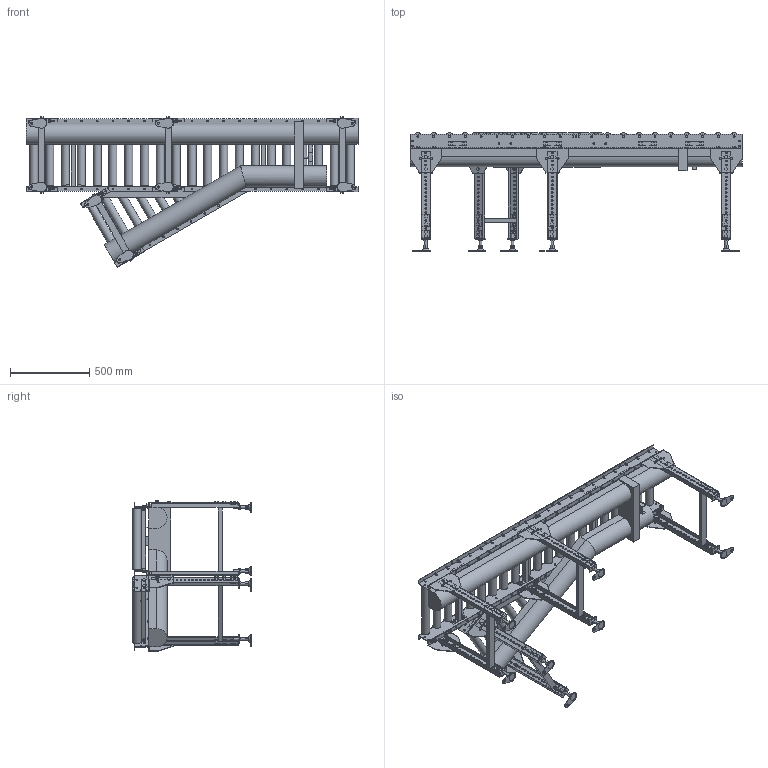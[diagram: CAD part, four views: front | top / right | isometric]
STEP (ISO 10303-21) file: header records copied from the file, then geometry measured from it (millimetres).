
FILE_DESCRIPTION( (''), '2;1');
FILE_NAME ('WEB-MCD-50-400-100-210-L-J30.stp','2025-07-01T15:42:36',(''),(''),'spGate 20.6.2 (****-****-****-****)','','');
FILE_SCHEMA (('AUTOMOTIVE_DESIGN'));
Length unit declared in the file: millimetre
Products named in the file (60): WEB-MCD-50-400-100-210-L-J30; TEMP_X_T-prt0; TEMP_X_T-prt1; TEMP_X_T-prt2; TEMP_X_T-prt3; TEMP_X_T-prt4; TEMP_X_T-prt5; TEMP_X_T-prt6; TEMP_X_T-prt7; TEMP_X_T-prt8; TEMP_X_T-prt9; TEMP_X_T-prt10; TEMP_X_T-prt11; TEMP_X_T-prt12; TEMP_X_T-prt13; TEMP_X_T-prt14; TEMP_X_T-prt15; TEMP_X_T-prt16; TEMP_X_T-prt17; TEMP_X_T-prt18; TEMP_X_T-prt19; TEMP_X_T-prt20; TEMP_X_T-prt21; TEMP_X_T-prt22; TEMP_X_T-prt23; TEMP_X_T-prt24; TEMP_X_T-prt25; TEMP_X_T-prt26; TEMP_X_T-prt27; TEMP_X_T-prt28; TEMP_X_T-prt29; TEMP_X_T-prt30; TEMP_X_T-prt31; TEMP_X_T-prt32; TEMP_X_T-prt33; TEMP_X_T-prt34; TEMP_X_T-prt35; TEMP_X_T-prt36; TEMP_X_T-prt37; TEMP_X_T-prt38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
Assembly tree (59 placements, depth 2):
  WEB-MCD-50-400-100-210-L-J30
    TEMP_X_T-prt0
    TEMP_X_T-prt1
    TEMP_X_T-prt2
    TEMP_X_T-prt3
    TEMP_X_T-prt4
    TEMP_X_T-prt5
    TEMP_X_T-prt6
    TEMP_X_T-prt7
    TEMP_X_T-prt8
    TEMP_X_T-prt9
    TEMP_X_T-prt10
    TEMP_X_T-prt11
    TEMP_X_T-prt12
    TEMP_X_T-prt13
    TEMP_X_T-prt14
    TEMP_X_T-prt15
    TEMP_X_T-prt16
    TEMP_X_T-prt17
    TEMP_X_T-prt18
    TEMP_X_T-prt19
    TEMP_X_T-prt20
    TEMP_X_T-prt21
    TEMP_X_T-prt22
    TEMP_X_T-prt23
    TEMP_X_T-prt24
    TEMP_X_T-prt25
    TEMP_X_T-prt26
    TEMP_X_T-prt27
    TEMP_X_T-prt28
    TEMP_X_T-prt29
    TEMP_X_T-prt30
    TEMP_X_T-prt31
    TEMP_X_T-prt32
    TEMP_X_T-prt33
    TEMP_X_T-prt34
    TEMP_X_T-prt35
    TEMP_X_T-prt36
    TEMP_X_T-prt37
    TEMP_X_T-prt38
    TEMP_X_T-prt39
    TEMP_X_T-prt40
    TEMP_X_T-prt41
    TEMP_X_T-prt42
    TEMP_X_T-prt43
    TEMP_X_T-prt44
    TEMP_X_T-prt45
    TEMP_X_T-prt46
    TEMP_X_T-prt47
    TEMP_X_T-prt48
    TEMP_X_T-prt49
    TEMP_X_T-prt50
    TEMP_X_T-prt51
    TEMP_X_T-prt52
    TEMP_X_T-prt53
    TEMP_X_T-prt54
    TEMP_X_T-prt55
    TEMP_X_T-prt56
    TEMP_X_T-prt57
    TEMP_X_T-prt58
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Bounding box: 2100 x 750 x 950.96 mm (x, y, z)
Volume: 81692562 mm3; surface area: 7333622.8 mm2
Topology: 59 solids, 99 shells, 4010 faces, 10573 edges, 6945 vertices
Faces by surface type: plane 3235, cylinder 767, bspline 8
Full cylindrical faces by diameter (mm): 9 x12, 10 x102, 10.5 x184, 11 x60, 12 x53, 13 x23, 16 x8, 18.4 x48, 18.5 x16, 21 x24, 50.8 x29
Entity records: 211867 total; most frequent: CARTESIAN_POINT 23363, DIRECTION 21419, ORIENTED_EDGE 21146, COLOUR_RGB 14642, PRESENTATION_STYLE_ASSIGNMENT 14642, STYLED_ITEM 14642, EDGE_CURVE 10573, DRAUGHTING_PRE_DEFINED_CURVE_FONT 10573
